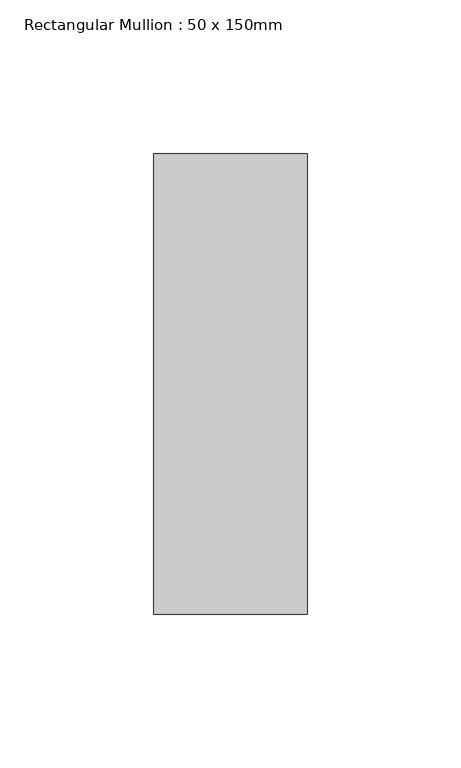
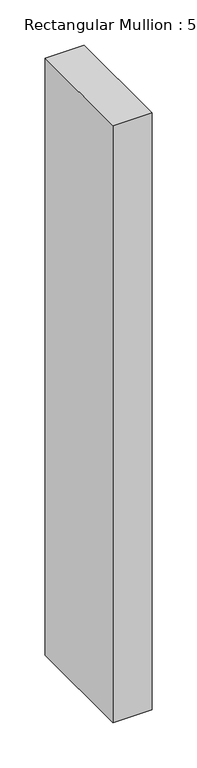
"""IFC4 building model written with IfcOpenShell, lengths in millimetres: member geometry, Rectangular Mullion : 50 x 150mm."""

from ifc_helpers import new_model, si_unit, frame, origin, place, context, project, spatial, polyline, outline, extrude, source, transform, mapped, element, save


def rectangular_mullion_50_x_150mm_f1d7dc28(model_context):
    return source(origin(), model_context, "Body", "SweptSolid", [
        extrude(outline(polyline([(25.0, 75.0), (25.0, -75.0), (-25.0, -75.0), (-25.0, 75.0), (25.0, 75.0)])), frame((0.0, 0.0, -806.2499998), z_axis=(0.0, 0.0, 1.0), x_axis=(1.0, 0.0, 0.0)), (0.0, 0.0, 1.0), 806.2499998),
    ])


if __name__ == "__main__":
    model = new_model("IFC4")
    model_context = context("Model", 3, world=origin())
    ifc_project = project(units=[si_unit("LENGTHUNIT", "METRE", prefix="MILLI")], contexts=[model_context])
    site = spatial("IfcSite", under=ifc_project)
    building = spatial("IfcBuilding", under=site)
    placement = place(None, origin())
    rectangular_mullion_50_x_150mm_shape = rectangular_mullion_50_x_150mm_f1d7dc28(model_context)
    element("IfcMember", 1, ObjectType="Rectangular Mullion : 50 x 150mm", at=placement, inside=building, context=model_context, shape_type="MappedRepresentation", body=[
        mapped(rectangular_mullion_50_x_150mm_shape, transform((0.0, 0.0, 0.0), x_axis=(1.0, 0.0, 0.0), y_axis=(0.0, 1.0, 0.0), z_axis=(0.0, 0.0, 1.0))),
    ])
    save(model, "model.ifc")
